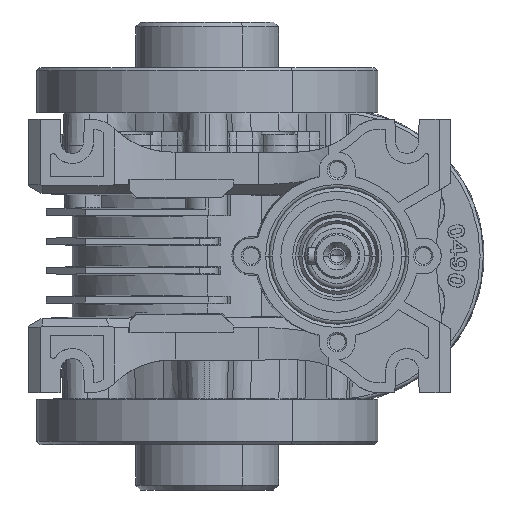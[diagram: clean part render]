
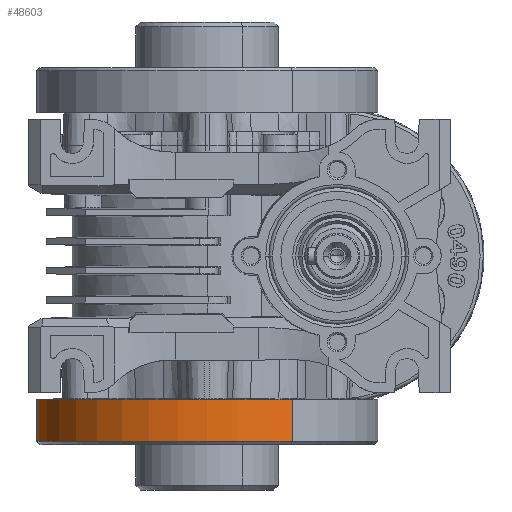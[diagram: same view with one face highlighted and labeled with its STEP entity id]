
A CAD part, left-side view. The second image highlights one B-rep face of the part: STEP entity #48603.
In plain terms, the highlighted cylindrical face has radius 52.5 mm (diameter 105 mm), a partial arc.
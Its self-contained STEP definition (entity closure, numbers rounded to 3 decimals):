
#682 = CARTESIAN_POINT ( 'NONE',  ( 45.466, 26.25, -44. ) ) ;
#3334 = DIRECTION ( 'NONE',  ( 0., 0., 1. ) ) ;
#4391 = CARTESIAN_POINT ( 'NONE',  ( 0., 0., -57. ) ) ;
#5400 = AXIS2_PLACEMENT_3D ( 'NONE', #4391, #54183, #100040 ) ;
#5567 = ORIENTED_EDGE ( 'NONE', *, *, #80874, .T. ) ;
#9201 = AXIS2_PLACEMENT_3D ( 'NONE', #75405, #19303, #65665 ) ;
#9757 = VECTOR ( 'NONE', #55616, 1000. ) ;
#11912 = CARTESIAN_POINT ( 'NONE',  ( 45.466, 26.25, -44. ) ) ;
#13300 = EDGE_CURVE ( 'NONE', #53024, #75951, #63918, .T. ) ;
#14161 = CARTESIAN_POINT ( 'NONE',  ( -45.466, -26.25, -44. ) ) ;
#18035 = LINE ( 'NONE', #24240, #9757 ) ;
#19303 = DIRECTION ( 'NONE',  ( 0., 0., 1. ) ) ;
#19650 = ORIENTED_EDGE ( 'NONE', *, *, #40599, .T. ) ;
#24240 = CARTESIAN_POINT ( 'NONE',  ( -45.466, -26.25, -44. ) ) ;
#27448 = VERTEX_POINT ( 'NONE', #14161 ) ;
#31351 = ORIENTED_EDGE ( 'NONE', *, *, #74339, .F. ) ;
#39922 = CIRCLE ( 'NONE', #5400, 52.5 ) ;
#40599 = EDGE_CURVE ( 'NONE', #53024, #53753, #39922, .T. ) ;
#43939 = FACE_OUTER_BOUND ( 'NONE', #82381, .T. ) ;
#48603 = ADVANCED_FACE ( 'NONE', ( #43939 ), #50120, .T. ) ;
#50120 = CYLINDRICAL_SURFACE ( 'NONE', #63150, 52.5 ) ;
#53024 = VERTEX_POINT ( 'NONE', #77375 ) ;
#53753 = VERTEX_POINT ( 'NONE', #98797 ) ;
#54183 = DIRECTION ( 'NONE',  ( 0., 0., 1. ) ) ;
#55616 = DIRECTION ( 'NONE',  ( 0., 0., 1. ) ) ;
#57312 = DIRECTION ( 'NONE',  ( 0.866, 0.5, 0. ) ) ;
#61869 = DIRECTION ( 'NONE',  ( 0., 0., 1. ) ) ;
#63150 = AXIS2_PLACEMENT_3D ( 'NONE', #88766, #3334, #57312 ) ;
#63918 = LINE ( 'NONE', #682, #87700 ) ;
#65665 = DIRECTION ( 'NONE',  ( 0.866, 0.5, 0. ) ) ;
#72144 = ORIENTED_EDGE ( 'NONE', *, *, #13300, .F. ) ;
#74339 = EDGE_CURVE ( 'NONE', #75951, #27448, #91419, .T. ) ;
#75405 = CARTESIAN_POINT ( 'NONE',  ( 0., 0., -44. ) ) ;
#75951 = VERTEX_POINT ( 'NONE', #11912 ) ;
#77375 = CARTESIAN_POINT ( 'NONE',  ( 45.466, 26.25, -57. ) ) ;
#80874 = EDGE_CURVE ( 'NONE', #53753, #27448, #18035, .T. ) ;
#82381 = EDGE_LOOP ( 'NONE', ( #19650, #5567, #31351, #72144 ) ) ;
#87700 = VECTOR ( 'NONE', #61869, 1000. ) ;
#88766 = CARTESIAN_POINT ( 'NONE',  ( 0., 0., -44. ) ) ;
#91419 = CIRCLE ( 'NONE', #9201, 52.5 ) ;
#98797 = CARTESIAN_POINT ( 'NONE',  ( -45.466, -26.25, -57. ) ) ;
#100040 = DIRECTION ( 'NONE',  ( 0.866, 0.5, 0. ) ) ;
